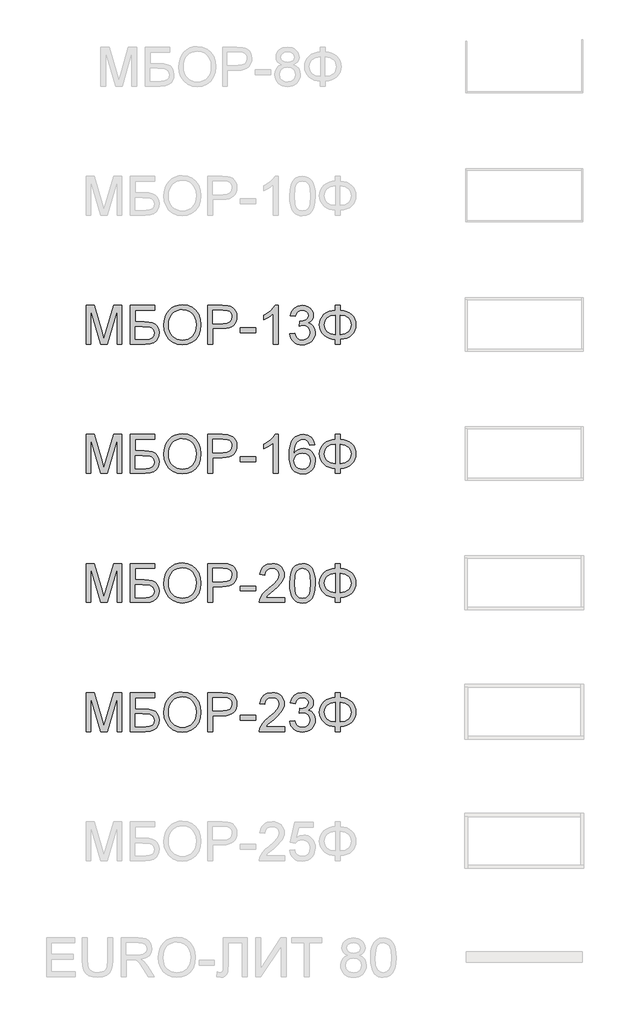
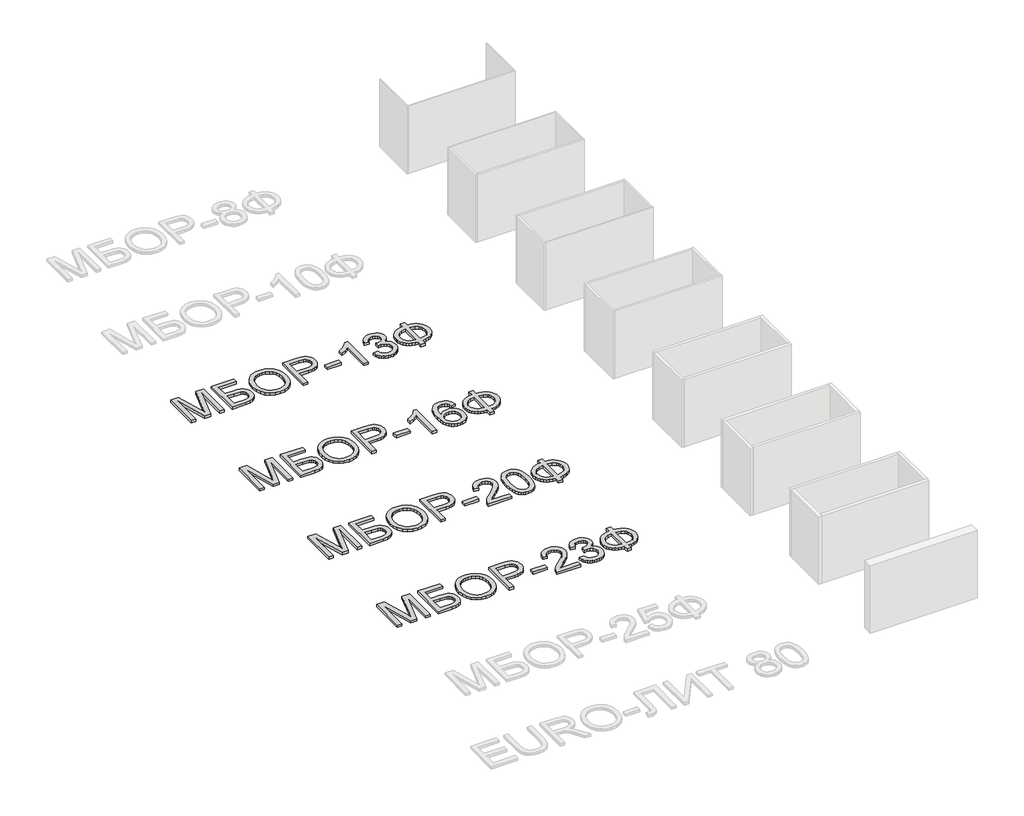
# One storey, part 12 of 35: 4 proxies.
"""IFC4 building model written with IfcOpenShell, lengths in millimetres."""

from ifc_helpers import new_model, si_unit, origin, origin_with_axes, place, context, project, spatial, polyline, outline, extrude, element, save

model = new_model("IFC4")

# Units and contexts
model_context = context("Model", 3, world=origin())
ifc_project = project(units=[si_unit("LENGTHUNIT", "METRE", prefix="MILLI")], contexts=[model_context])

# Site, building, storey
site = spatial("IfcSite", under=ifc_project)
building = spatial("IfcBuilding", under=site)
storey = spatial("IfcBuildingStorey", under=building, Name="Этаж 01", Elevation=0.0)

# Proxies
placement = place(None, origin())
element("IfcBuildingElementProxy", 1, Name="600 мм Arial", ObjectType="600 мм Arial", at=placement, inside=storey, context=model_context, shape_type="SweptSolid", body=[
    extrude(outline(polyline([(7606.5104711, -52310.4960856), (7606.5104711, -52009.1271552), (7671.3312786, -52009.1271552), (7732.988301, -52221.5422192), (7745.4227125, -52265.9087878), (7758.8871935, -52217.8633993), (7819.5141463, -52009.1271552), (7884.3349539, -52009.1271552), (7884.3349539, -52310.4960856), (7846.6638375, -52310.4960856), (7846.6638375, -52046.7982715), (7770.9537229, -52310.4960856), (7719.891702, -52310.4960856), (7644.1815874, -52046.7982715), (7644.1815874, -52310.4960856), (7606.5104711, -52310.4960856)])), origin_with_axes(), (0.0, 0.0, 1.0), 20.0),
    extrude(outline(polyline([(7950.2594074, -52009.1271552), (8138.6149889, -52009.1271552), (8138.6149889, -52046.7982715), (7987.9305237, -52046.7982715), (7987.9305237, -52136.2671727), (8058.4902904, -52136.2671727), (8093.5678386, -52138.1801591), (8120.6623476, -52143.9191182), (8141.4660744, -52154.9739722), (8157.6712763, -52172.8346431), (8168.1007308, -52195.8272678), (8171.5772157, -52222.2779832), (8169.1032093, -52244.4888587), (8161.68119, -52265.209812), (8149.3479461, -52283.3555915), (8132.1402658, -52297.840945), (8105.5975799, -52307.3323005), (8065.2593191, -52310.4960856), (7950.2594074, -52310.4960856), (7950.2594074, -52009.1271552)]), holes=[polyline([(7987.9305237, -52272.8249693), (8068.6438334, -52272.8249693), (8097.1730822, -52269.7163665), (8117.5721388, -52260.3905579), (8129.8226092, -52244.8475436), (8133.9060994, -52223.0873236), (8131.5700487, -52206.8821217), (8124.5618967, -52193.5831876), (8113.3874811, -52183.7239501), (8098.5526396, -52177.8378382), (8041.7884478, -52173.938289), (7987.9305237, -52173.938289), (7987.9305237, -52272.8249693)])]), origin_with_axes(), (0.0, 0.0, 1.0), 20.0),
    extrude(outline(polyline([(8209.248332, -52163.784746), (8211.7591266, -52128.4358848), (8219.2915105, -52097.1429225), (8231.8454835, -52069.9058593), (8249.4210459, -52046.7246951), (8270.9651352, -52028.2156322), (8295.4246894, -52014.994873), (8322.7997083, -52007.0624175), (8353.0901921, -52004.4182657), (8392.6191125, -52009.3846726), (8428.0645427, -52024.2838934), (8457.4951023, -52048.0674644), (8478.9794109, -52079.6869219), (8492.1127981, -52117.6155556), (8496.4905938, -52160.3266552), (8491.8828718, -52203.607972), (8478.0597059, -52242.0700345), (8455.7844511, -52273.7446743), (8425.8204626, -52296.6637226), (8390.678535, -52310.569662), (8352.8694629, -52315.2049752), (8312.7335372, -52310.0822184), (8277.0857719, -52294.7139481), (8247.7287887, -52270.4889187), (8226.4652094, -52238.7958848), (8213.5525513, -52202.329582), (8209.248332, -52163.784746)]), holes=[polyline([(8246.9194483, -52164.152628), (8248.8025443, -52189.1272169), (8254.4518321, -52211.2967056), (8263.867312, -52230.6610942), (8277.0489837, -52247.2203825), (8293.0725439, -52260.4825284), (8311.0136889, -52269.9554898), (8330.8724189, -52275.6392666), (8352.6487337, -52277.5338589), (8374.7975291, -52275.6208725), (8394.8907838, -52269.8819134), (8412.9284979, -52260.3169815), (8428.9106713, -52246.9260769), (8441.995774, -52230.0173007), (8451.342276, -52209.8987541), (8456.9501771, -52186.570437), (8458.8194775, -52160.0323496), (8455.6189042, -52126.6838468), (8446.0171841, -52097.8602924), (8430.2626376, -52074.2882536), (8408.6035852, -52056.6942972), (8382.4747665, -52045.7406108), (8353.3109213, -52042.089382), (8332.2910638, -52043.8483178), (8312.7887195, -52049.1251251), (8294.8038885, -52057.9198041), (8278.3365707, -52070.2323546), (8264.5915796, -52086.6559864), (8254.7737289, -52107.7839093), (8248.8830184, -52133.6161231), (8246.9194483, -52164.152628)])]), origin_with_axes(), (0.0, 0.0, 1.0), 20.0),
    extrude(outline(polyline([(8548.2883787, -52310.4960856), (8548.2883787, -52009.1271552), (8659.9773525, -52009.1271552), (8705.0061087, -52011.9966348), (8725.0832686, -52017.3585148), (8741.6103672, -52026.0865152), (8754.9184984, -52038.5761089), (8765.3387559, -52055.2227692), (8772.0709964, -52074.8584707), (8774.3150766, -52096.3151881), (8772.7998626, -52114.8150539), (8768.2542207, -52131.8341947), (8760.6781509, -52147.3726105), (8750.0716531, -52161.4303012), (8735.5104239, -52173.0829634), (8716.0701597, -52181.4062935), (8691.7508606, -52186.4002916), (8662.5525264, -52188.0649577), (8585.9594951, -52188.0649577), (8585.9594951, -52310.4960856), (8548.2883787, -52310.4960856)]), holes=[polyline([(8585.9594951, -52150.3938413), (8664.7598184, -52150.3938413), (8698.1635036, -52146.9357506), (8720.2364233, -52136.5614783), (8732.542076, -52119.914818), (8736.6439603, -52097.6395632), (8734.2251362, -52080.7169915), (8726.9686638, -52066.44317), (8715.7758541, -52055.7010158), (8701.5480179, -52049.3734455), (8663.8769016, -52046.7982715), (8585.9594951, -52046.7982715), (8585.9594951, -52150.3938413)])]), origin_with_axes(), (0.0, 0.0, 1.0), 20.0),
    extrude(outline(polyline([(8802.5684138, -52221.0271844), (8802.5684138, -52183.3560681), (8920.2906523, -52183.3560681), (8920.2906523, -52221.0271844), (8802.5684138, -52221.0271844)])), origin_with_axes(), (0.0, 0.0, 1.0), 20.0),
    extrude(outline(polyline([(9094.5195652, -52310.4960856), (9056.8484489, -52310.4960856), (9056.8484489, -52075.6402199), (9021.1638953, -52101.0608658), (8981.5062163, -52120.0803649), (8981.5062163, -52084.4693878), (9011.0931257, -52068.3745505), (9036.7253037, -52049.2262927), (9056.9312223, -52028.8640242), (9070.2393535, -52009.1271552), (9094.5195652, -52009.1271552), (9094.5195652, -52310.4960856)])), origin_with_axes(), (0.0, 0.0, 1.0), 20.0),
    extrude(outline(polyline([(9183.9884664, -52230.4449635), (9221.6595827, -52225.736074), (9230.0932775, -52249.4092803), (9242.4449154, -52265.393753), (9259.321502, -52274.4988324), (9281.3300423, -52277.5338589), (9307.1553584, -52273.3583982), (9327.0945625, -52260.8320163), (9339.8416737, -52242.1436109), (9344.0907107, -52219.48208), (9339.8784619, -52197.9701804), (9327.2417153, -52180.5233768), (9308.1118516, -52168.9626851), (9284.4202511, -52165.1091212), (9258.0063238, -52169.2293995), (9262.2001786, -52131.5582832), (9268.2334433, -52131.9997416), (9290.8030037, -52129.2958089), (9310.9813311, -52121.1840109), (9325.2183644, -52107.4620125), (9329.9640421, -52087.9274786), (9326.5243454, -52071.6578973), (9316.2052555, -52058.4601308), (9300.4599061, -52049.7137363), (9280.7414311, -52046.7982715), (9260.986168, -52049.7413275), (9244.8361484, -52058.5704954), (9233.0455305, -52073.2857752), (9226.3684723, -52093.8871669), (9188.697356, -52089.1782774), (9199.7889981, -52055.3515279), (9219.5258671, -52030.0964289), (9246.5284056, -52014.3694736), (9279.417056, -52009.1271552), (9303.0994594, -52011.7115262), (9324.8504824, -52019.4646393), (9343.1893998, -52031.6967156), (9356.6354867, -52047.7179765), (9364.8852405, -52066.1764556), (9367.6351584, -52085.7201866), (9365.0231962, -52103.9303454), (9357.1873097, -52120.4482469), (9344.2378635, -52134.5197333), (9326.2852221, -52145.3906462), (9349.866458, -52154.9187899), (9367.3408528, -52171.1423859), (9378.1565835, -52193.1785174), (9381.761827, -52220.1442676), (9379.9592052, -52239.2557373), (9374.5513399, -52256.8588908), (9365.538231, -52272.953728), (9352.9198786, -52287.5402491), (9337.5470097, -52299.6435668), (9320.2703515, -52308.2887937), (9301.089904, -52313.4759298), (9280.0056672, -52315.2049752), (9260.9493798, -52313.7288487), (9243.5853496, -52309.3004692), (9227.9135766, -52301.9198366), (9213.9340608, -52291.5869511), (9202.2124207, -52278.9088178), (9193.314275, -52264.4924422), (9187.2396235, -52248.337824), (9183.9884664, -52230.4449635)])), origin_with_axes(), (0.0, 0.0, 1.0), 20.0),
    extrude(outline(polyline([(9537.1551818, -52046.7982715), (9537.1551818, -52009.1271552), (9574.8262981, -52009.1271552), (9574.8262981, -52046.7982715), (9601.6977786, -52050.1184065), (9625.5848164, -52056.9886028), (9646.4874115, -52067.4088603), (9664.4055639, -52081.3791791), (9678.7782536, -52098.0856202), (9689.0444605, -52116.7142447), (9695.2041847, -52137.2650526), (9697.2574261, -52159.738044), (9695.268564, -52181.76038), (9689.3019779, -52202.0628676), (9679.3576678, -52220.6455069), (9665.4356335, -52237.5082978), (9647.8393778, -52251.7177399), (9626.8724034, -52262.3403325), (9602.5347101, -52269.3760756), (9574.8262981, -52272.8249693), (9574.8262981, -52310.4960856), (9537.1551818, -52310.4960856), (9537.1551818, -52272.8249693), (9511.9874548, -52270.0175699), (9489.0178227, -52263.6555106), (9468.2462856, -52253.7387916), (9449.6728433, -52240.2674128), (9434.3827479, -52223.7977957), (9423.4612512, -52204.8863619), (9416.9083531, -52183.5331113), (9414.7240538, -52159.738044), (9416.9014553, -52135.8349114), (9423.43366, -52114.4517704), (9434.3206678, -52095.5886211), (9449.5624787, -52079.2454635), (9468.101432, -52065.9051426), (9488.879867, -52056.0505037), (9511.8977836, -52049.6815466), (9537.1551818, -52046.7982715)]), holes=[polyline([(9537.1551818, -52084.4693878), (9502.8777769, -52090.5026525), (9475.8292532, -52105.5122379), (9465.5768418, -52116.217604), (9458.2536909, -52128.8359564), (9453.8598003, -52143.3672952), (9452.3951701, -52159.8116204), (9453.8414062, -52176.1064935), (9458.1801145, -52190.5573582), (9465.4112949, -52203.1642143), (9475.5349476, -52213.9270619), (9502.5098949, -52229.0746031), (9537.1551818, -52235.153853), (9537.1551818, -52084.4693878)]), polyline([(9574.8262981, -52084.4693878), (9574.8262981, -52235.153853), (9610.0693932, -52228.9274503), (9636.9247789, -52213.7799091), (9646.8391986, -52203.0538497), (9653.9209271, -52190.4837818), (9659.5863098, -52159.8116204), (9654.0220946, -52129.5533263), (9647.0668256, -52117.0591341), (9637.3294491, -52106.3215783), (9610.575231, -52090.9992932), (9574.8262981, -52084.4693878)])]), origin_with_axes(), (0.0, 0.0, 1.0), 20.0),
])
element("IfcBuildingElementProxy", 2, Name="600 мм Arial", ObjectType="600 мм Arial", at=placement, inside=storey, context=model_context, shape_type="SweptSolid", body=[
    extrude(outline(polyline([(7606.5104711, -53310.4960856), (7606.5104711, -53009.1271552), (7671.3312786, -53009.1271552), (7732.988301, -53221.5422192), (7745.4227125, -53265.9087878), (7758.8871935, -53217.8633993), (7819.5141463, -53009.1271552), (7884.3349539, -53009.1271552), (7884.3349539, -53310.4960856), (7846.6638375, -53310.4960856), (7846.6638375, -53046.7982715), (7770.9537229, -53310.4960856), (7719.891702, -53310.4960856), (7644.1815874, -53046.7982715), (7644.1815874, -53310.4960856), (7606.5104711, -53310.4960856)])), origin_with_axes(), (0.0, 0.0, 1.0), 20.0),
    extrude(outline(polyline([(7950.2594074, -53009.1271552), (8138.6149889, -53009.1271552), (8138.6149889, -53046.7982715), (7987.9305237, -53046.7982715), (7987.9305237, -53136.2671727), (8058.4902904, -53136.2671727), (8093.5678386, -53138.1801591), (8120.6623476, -53143.9191182), (8141.4660744, -53154.9739722), (8157.6712763, -53172.8346431), (8168.1007308, -53195.8272678), (8171.5772157, -53222.2779832), (8169.1032093, -53244.4888587), (8161.68119, -53265.209812), (8149.3479461, -53283.3555915), (8132.1402658, -53297.840945), (8105.5975799, -53307.3323005), (8065.2593191, -53310.4960856), (7950.2594074, -53310.4960856), (7950.2594074, -53009.1271552)]), holes=[polyline([(7987.9305237, -53272.8249693), (8068.6438334, -53272.8249693), (8097.1730822, -53269.7163665), (8117.5721388, -53260.3905579), (8129.8226092, -53244.8475436), (8133.9060994, -53223.0873236), (8131.5700487, -53206.8821217), (8124.5618967, -53193.5831876), (8113.3874811, -53183.7239501), (8098.5526396, -53177.8378382), (8041.7884478, -53173.938289), (7987.9305237, -53173.938289), (7987.9305237, -53272.8249693)])]), origin_with_axes(), (0.0, 0.0, 1.0), 20.0),
    extrude(outline(polyline([(8209.248332, -53163.784746), (8211.7591266, -53128.4358848), (8219.2915105, -53097.1429225), (8231.8454835, -53069.9058593), (8249.4210459, -53046.7246951), (8270.9651352, -53028.2156322), (8295.4246894, -53014.994873), (8322.7997083, -53007.0624175), (8353.0901921, -53004.4182657), (8392.6191125, -53009.3846726), (8428.0645427, -53024.2838934), (8457.4951023, -53048.0674644), (8478.9794109, -53079.6869219), (8492.1127981, -53117.6155556), (8496.4905938, -53160.3266552), (8491.8828718, -53203.607972), (8478.0597059, -53242.0700345), (8455.7844511, -53273.7446743), (8425.8204626, -53296.6637226), (8390.678535, -53310.569662), (8352.8694629, -53315.2049752), (8312.7335372, -53310.0822184), (8277.0857719, -53294.7139481), (8247.7287887, -53270.4889187), (8226.4652094, -53238.7958848), (8213.5525513, -53202.329582), (8209.248332, -53163.784746)]), holes=[polyline([(8246.9194483, -53164.152628), (8248.8025443, -53189.1272169), (8254.4518321, -53211.2967056), (8263.867312, -53230.6610942), (8277.0489837, -53247.2203825), (8293.0725439, -53260.4825284), (8311.0136889, -53269.9554898), (8330.8724189, -53275.6392666), (8352.6487337, -53277.5338589), (8374.7975291, -53275.6208725), (8394.8907838, -53269.8819134), (8412.9284979, -53260.3169815), (8428.9106713, -53246.9260769), (8441.995774, -53230.0173007), (8451.342276, -53209.8987541), (8456.9501771, -53186.570437), (8458.8194775, -53160.0323496), (8455.6189042, -53126.6838468), (8446.0171841, -53097.8602924), (8430.2626376, -53074.2882536), (8408.6035852, -53056.6942972), (8382.4747665, -53045.7406108), (8353.3109213, -53042.089382), (8332.2910638, -53043.8483178), (8312.7887195, -53049.1251251), (8294.8038885, -53057.9198041), (8278.3365707, -53070.2323546), (8264.5915796, -53086.6559864), (8254.7737289, -53107.7839093), (8248.8830184, -53133.6161231), (8246.9194483, -53164.152628)])]), origin_with_axes(), (0.0, 0.0, 1.0), 20.0),
    extrude(outline(polyline([(8548.2883787, -53310.4960856), (8548.2883787, -53009.1271552), (8659.9773525, -53009.1271552), (8705.0061087, -53011.9966348), (8725.0832686, -53017.3585148), (8741.6103672, -53026.0865152), (8754.9184984, -53038.5761089), (8765.3387559, -53055.2227692), (8772.0709964, -53074.8584707), (8774.3150766, -53096.3151881), (8772.7998626, -53114.8150539), (8768.2542207, -53131.8341947), (8760.6781509, -53147.3726105), (8750.0716531, -53161.4303012), (8735.5104239, -53173.0829634), (8716.0701597, -53181.4062935), (8691.7508606, -53186.4002916), (8662.5525264, -53188.0649577), (8585.9594951, -53188.0649577), (8585.9594951, -53310.4960856), (8548.2883787, -53310.4960856)]), holes=[polyline([(8585.9594951, -53150.3938413), (8664.7598184, -53150.3938413), (8698.1635036, -53146.9357506), (8720.2364233, -53136.5614783), (8732.542076, -53119.914818), (8736.6439603, -53097.6395632), (8734.2251362, -53080.7169915), (8726.9686638, -53066.44317), (8715.7758541, -53055.7010158), (8701.5480179, -53049.3734455), (8663.8769016, -53046.7982715), (8585.9594951, -53046.7982715), (8585.9594951, -53150.3938413)])]), origin_with_axes(), (0.0, 0.0, 1.0), 20.0),
    extrude(outline(polyline([(8802.5684138, -53221.0271844), (8802.5684138, -53183.3560681), (8920.2906523, -53183.3560681), (8920.2906523, -53221.0271844), (8802.5684138, -53221.0271844)])), origin_with_axes(), (0.0, 0.0, 1.0), 20.0),
    extrude(outline(polyline([(9094.5195652, -53310.4960856), (9056.8484489, -53310.4960856), (9056.8484489, -53075.6402199), (9021.1638953, -53101.0608658), (8981.5062163, -53120.0803649), (8981.5062163, -53084.4693878), (9011.0931257, -53068.3745505), (9036.7253037, -53049.2262927), (9056.9312223, -53028.8640242), (9070.2393535, -53009.1271552), (9094.5195652, -53009.1271552), (9094.5195652, -53310.4960856)])), origin_with_axes(), (0.0, 0.0, 1.0), 20.0),
    extrude(outline(polyline([(9377.0529375, -53089.1782774), (9339.3818212, -53093.8871669), (9333.3117683, -53075.2171556), (9325.1079998, -53062.4700445), (9308.0198811, -53050.7162148), (9287.3633071, -53046.7982715), (9269.8521241, -53049.0791399), (9253.3710107, -53055.921745), (9239.2167509, -53070.3335221), (9227.6560592, -53090.1715587), (9219.8477639, -53118.2317579), (9216.9506932, -53157.3100229), (9232.0614461, -53139.6792782), (9250.1704373, -53127.2540639), (9270.2659913, -53119.8872269), (9291.3364326, -53117.4316146), (9309.4362268, -53119.1100762), (9326.1380693, -53124.145461), (9341.4419603, -53132.537769), (9355.3478998, -53144.2870002), (9366.9039929, -53158.6941789), (9375.1583452, -53175.0603291), (9380.1109566, -53193.385451), (9381.761827, -53213.6695445), (9378.6532242, -53240.6444918), (9369.3274156, -53265.6512704), (9354.5569535, -53286.8596675), (9335.11439, -53302.43947), (9311.882642, -53312.0135989), (9285.7446263, -53315.2049752), (9263.2877297, -53313.0896537), (9243.0059355, -53306.7436893), (9224.8992435, -53296.1670819), (9208.9676539, -53281.3598316), (9195.9791202, -53261.696539), (9186.7015961, -53236.5518046), (9181.1350817, -53205.9256285), (9179.2795769, -53169.8180107), (9181.339716, -53129.3371956), (9187.5201336, -53094.7884778), (9197.8208294, -53066.1718571), (9212.2418036, -53043.4873335), (9227.8721899, -53028.4547555), (9245.9949767, -53017.7171998), (9266.610164, -53011.2746663), (9289.7177518, -53009.1271552), (9322.7719491, -53014.44305), (9349.2410586, -53030.3907345), (9367.7823112, -53055.7194099), (9377.0529375, -53089.1782774)]), holes=[polyline([(9216.9506932, -53213.0809333), (9219.130394, -53229.7735789), (9225.6694965, -53245.7120663), (9235.8230395, -53259.4156706), (9248.8460622, -53269.4036668), (9264.5638204, -53275.5013109), (9282.8015703, -53277.5338589), (9307.6611961, -53273.32161), (9327.2049271, -53260.6848635), (9339.8692648, -53240.8192358), (9344.0907107, -53214.9203433), (9339.9244471, -53190.0607175), (9327.4256563, -53171.1055977), (9307.5508315, -53159.1034476), (9281.2564659, -53155.1027309), (9256.4336283, -53159.1034476), (9235.6758867, -53171.1055977), (9221.6319916, -53189.600865), (9216.9506932, -53213.0809333)])]), origin_with_axes(), (0.0, 0.0, 1.0), 20.0),
    extrude(outline(polyline([(9537.1551818, -53046.7982715), (9537.1551818, -53009.1271552), (9574.8262981, -53009.1271552), (9574.8262981, -53046.7982715), (9601.6977786, -53050.1184065), (9625.5848164, -53056.9886028), (9646.4874115, -53067.4088603), (9664.4055639, -53081.3791791), (9678.7782536, -53098.0856202), (9689.0444605, -53116.7142447), (9695.2041847, -53137.2650526), (9697.2574261, -53159.738044), (9695.268564, -53181.76038), (9689.3019779, -53202.0628676), (9679.3576678, -53220.6455069), (9665.4356335, -53237.5082978), (9647.8393778, -53251.7177399), (9626.8724034, -53262.3403325), (9602.5347101, -53269.3760756), (9574.8262981, -53272.8249693), (9574.8262981, -53310.4960856), (9537.1551818, -53310.4960856), (9537.1551818, -53272.8249693), (9511.9874548, -53270.0175699), (9489.0178227, -53263.6555106), (9468.2462856, -53253.7387916), (9449.6728433, -53240.2674128), (9434.3827479, -53223.7977957), (9423.4612512, -53204.8863619), (9416.9083531, -53183.5331113), (9414.7240538, -53159.738044), (9416.9014553, -53135.8349114), (9423.43366, -53114.4517704), (9434.3206678, -53095.5886211), (9449.5624787, -53079.2454635), (9468.101432, -53065.9051426), (9488.879867, -53056.0505037), (9511.8977836, -53049.6815466), (9537.1551818, -53046.7982715)]), holes=[polyline([(9574.8262981, -53084.4693878), (9574.8262981, -53235.153853), (9610.0693932, -53228.9274503), (9636.9247789, -53213.7799091), (9646.8391986, -53203.0538497), (9653.9209271, -53190.4837818), (9659.5863098, -53159.8116204), (9654.0220946, -53129.5533263), (9647.0668256, -53117.0591341), (9637.3294491, -53106.3215783), (9610.575231, -53090.9992932), (9574.8262981, -53084.4693878)]), polyline([(9537.1551818, -53084.4693878), (9502.8777769, -53090.5026525), (9475.8292532, -53105.5122379), (9465.5768418, -53116.217604), (9458.2536909, -53128.8359564), (9453.8598003, -53143.3672952), (9452.3951701, -53159.8116204), (9453.8414062, -53176.1064935), (9458.1801145, -53190.5573582), (9465.4112949, -53203.1642143), (9475.5349476, -53213.9270619), (9502.5098949, -53229.0746031), (9537.1551818, -53235.153853), (9537.1551818, -53084.4693878)])]), origin_with_axes(), (0.0, 0.0, 1.0), 20.0),
])
element("IfcBuildingElementProxy", 3, Name="600 мм Arial", ObjectType="600 мм Arial", at=placement, inside=storey, context=model_context, shape_type="SweptSolid", body=[
    extrude(outline(polyline([(7606.5104711, -54310.4960856), (7606.5104711, -54009.1271552), (7671.3312786, -54009.1271552), (7732.988301, -54221.5422192), (7745.4227125, -54265.9087878), (7758.8871935, -54217.8633993), (7819.5141463, -54009.1271552), (7884.3349539, -54009.1271552), (7884.3349539, -54310.4960856), (7846.6638375, -54310.4960856), (7846.6638375, -54046.7982715), (7770.9537229, -54310.4960856), (7719.891702, -54310.4960856), (7644.1815874, -54046.7982715), (7644.1815874, -54310.4960856), (7606.5104711, -54310.4960856)])), origin_with_axes(), (0.0, 0.0, 1.0), 20.0),
    extrude(outline(polyline([(7950.2594074, -54009.1271552), (8138.6149889, -54009.1271552), (8138.6149889, -54046.7982715), (7987.9305237, -54046.7982715), (7987.9305237, -54136.2671727), (8058.4902904, -54136.2671727), (8093.5678386, -54138.1801591), (8120.6623476, -54143.9191182), (8141.4660744, -54154.9739722), (8157.6712763, -54172.8346431), (8168.1007308, -54195.8272678), (8171.5772157, -54222.2779832), (8169.1032093, -54244.4888587), (8161.68119, -54265.209812), (8149.3479461, -54283.3555915), (8132.1402658, -54297.840945), (8105.5975799, -54307.3323005), (8065.2593191, -54310.4960856), (7950.2594074, -54310.4960856), (7950.2594074, -54009.1271552)]), holes=[polyline([(7987.9305237, -54272.8249693), (8068.6438334, -54272.8249693), (8097.1730822, -54269.7163665), (8117.5721388, -54260.3905579), (8129.8226092, -54244.8475436), (8133.9060994, -54223.0873236), (8131.5700487, -54206.8821217), (8124.5618967, -54193.5831876), (8113.3874811, -54183.7239501), (8098.5526396, -54177.8378382), (8041.7884478, -54173.938289), (7987.9305237, -54173.938289), (7987.9305237, -54272.8249693)])]), origin_with_axes(), (0.0, 0.0, 1.0), 20.0),
    extrude(outline(polyline([(8209.248332, -54163.784746), (8211.7591266, -54128.4358848), (8219.2915105, -54097.1429225), (8231.8454835, -54069.9058593), (8249.4210459, -54046.7246951), (8270.9651352, -54028.2156322), (8295.4246894, -54014.994873), (8322.7997083, -54007.0624175), (8353.0901921, -54004.4182657), (8392.6191125, -54009.3846726), (8428.0645427, -54024.2838934), (8457.4951023, -54048.0674644), (8478.9794109, -54079.6869219), (8492.1127981, -54117.6155556), (8496.4905938, -54160.3266552), (8491.8828718, -54203.607972), (8478.0597059, -54242.0700345), (8455.7844511, -54273.7446743), (8425.8204626, -54296.6637226), (8390.678535, -54310.569662), (8352.8694629, -54315.2049752), (8312.7335372, -54310.0822184), (8277.0857719, -54294.7139481), (8247.7287887, -54270.4889187), (8226.4652094, -54238.7958848), (8213.5525513, -54202.329582), (8209.248332, -54163.784746)]), holes=[polyline([(8246.9194483, -54164.152628), (8248.8025443, -54189.1272169), (8254.4518321, -54211.2967056), (8263.867312, -54230.6610942), (8277.0489837, -54247.2203825), (8293.0725439, -54260.4825284), (8311.0136889, -54269.9554898), (8330.8724189, -54275.6392666), (8352.6487337, -54277.5338589), (8374.7975291, -54275.6208725), (8394.8907838, -54269.8819134), (8412.9284979, -54260.3169815), (8428.9106713, -54246.9260769), (8441.995774, -54230.0173007), (8451.342276, -54209.8987541), (8456.9501771, -54186.570437), (8458.8194775, -54160.0323496), (8455.6189042, -54126.6838468), (8446.0171841, -54097.8602924), (8430.2626376, -54074.2882536), (8408.6035852, -54056.6942972), (8382.4747665, -54045.7406108), (8353.3109213, -54042.089382), (8332.2910638, -54043.8483178), (8312.7887195, -54049.1251251), (8294.8038885, -54057.9198041), (8278.3365707, -54070.2323546), (8264.5915796, -54086.6559864), (8254.7737289, -54107.7839093), (8248.8830184, -54133.6161231), (8246.9194483, -54164.152628)])]), origin_with_axes(), (0.0, 0.0, 1.0), 20.0),
    extrude(outline(polyline([(8548.2883787, -54310.4960856), (8548.2883787, -54009.1271552), (8659.9773525, -54009.1271552), (8705.0061087, -54011.9966348), (8725.0832686, -54017.3585148), (8741.6103672, -54026.0865152), (8754.9184984, -54038.5761089), (8765.3387559, -54055.2227692), (8772.0709964, -54074.8584707), (8774.3150766, -54096.3151881), (8772.7998626, -54114.8150539), (8768.2542207, -54131.8341947), (8760.6781509, -54147.3726105), (8750.0716531, -54161.4303012), (8735.5104239, -54173.0829634), (8716.0701597, -54181.4062935), (8691.7508606, -54186.4002916), (8662.5525264, -54188.0649577), (8585.9594951, -54188.0649577), (8585.9594951, -54310.4960856), (8548.2883787, -54310.4960856)]), holes=[polyline([(8585.9594951, -54150.3938413), (8664.7598184, -54150.3938413), (8698.1635036, -54146.9357506), (8720.2364233, -54136.5614783), (8732.542076, -54119.914818), (8736.6439603, -54097.6395632), (8734.2251362, -54080.7169915), (8726.9686638, -54066.44317), (8715.7758541, -54055.7010158), (8701.5480179, -54049.3734455), (8663.8769016, -54046.7982715), (8585.9594951, -54046.7982715), (8585.9594951, -54150.3938413)])]), origin_with_axes(), (0.0, 0.0, 1.0), 20.0),
    extrude(outline(polyline([(8802.5684138, -54221.0271844), (8802.5684138, -54183.3560681), (8920.2906523, -54183.3560681), (8920.2906523, -54221.0271844), (8802.5684138, -54221.0271844)])), origin_with_axes(), (0.0, 0.0, 1.0), 20.0),
    extrude(outline(polyline([(9146.3173501, -54272.8249693), (9146.3173501, -54310.4960856), (8948.5439895, -54310.4960856), (8952.5906914, -54284.5236168), (8961.8797118, -54264.2257277), (8975.4729515, -54244.5348439), (8995.1362442, -54223.9242551), (9022.6354233, -54200.8672511), (9063.2863838, -54164.7596333), (9087.6769601, -54138.1065827), (9099.8722482, -54116.4751214), (9103.9373443, -54095.4322713), (9100.1021745, -54076.569122), (9088.5966651, -54060.8881519), (9070.9107381, -54050.3207416), (9048.5343158, -54046.7982715), (9025.0358533, -54050.2379682), (9006.7797093, -54060.5570581), (8994.9982884, -54076.946201), (8990.9239953, -54098.5960564), (8953.252879, -54093.8871669), (8962.3855496, -54057.4484553), (8970.9319082, -54042.9125179), (8982.1316157, -54030.8321929), (8995.7271546, -54021.3362389), (9011.4610077, -54014.5534146), (9049.3436562, -54009.1271552), (9069.5334799, -54010.6354714), (9087.5022161, -54015.1604199), (9103.2498648, -54022.7020008), (9116.7764259, -54033.2602141), (9127.6404411, -54046.0533105), (9135.4004519, -54060.2995407), (9140.0564584, -54075.9989049), (9141.6084606, -54093.1514029), (9139.9345975, -54111.1684236), (9134.9130083, -54128.8727446), (9126.0010669, -54146.8805683), (9112.6561475, -54165.8080969), (9091.3833712, -54188.4052485), (9058.6878589, -54217.4219409), (9015.3513598, -54253.6583174), (8998.3552116, -54272.8249693), (9146.3173501, -54272.8249693)])), origin_with_axes(), (0.0, 0.0, 1.0), 20.0),
    extrude(outline(polyline([(9183.9884664, -54162.2396416), (9186.7567784, -54114.001115), (9195.0617145, -54075.5298553), (9208.8205011, -54046.2372515), (9227.9503648, -54025.5346922), (9252.5892615, -54013.2290394), (9282.8751467, -54009.1271552), (9306.0885006, -54011.5551764), (9326.8738333, -54018.8392399), (9344.2562576, -54030.6942372), (9357.2608861, -54046.8350597), (9367.0833354, -54067.1237517), (9374.9192219, -54091.4223575), (9380.0511757, -54122.2784599), (9381.761827, -54162.2396416), (9379.0211062, -54210.2022567), (9370.7989436, -54248.5815459), (9357.1229304, -54277.9017409), (9338.0206578, -54298.6870736), (9313.3265789, -54311.0754998), (9282.8751467, -54315.2049752), (9262.1266022, -54313.4115505), (9243.7325024, -54308.0312763), (9227.6928474, -54299.0641526), (9214.0076372, -54286.5101796), (9200.87425, -54263.816459), (9191.4932591, -54235.5401291), (9185.8646646, -54201.68119), (9183.9884664, -54162.2396416)]), holes=[polyline([(9221.6595827, -54162.1660652), (9226.0741667, -54221.4226576), (9231.5923966, -54241.6906562), (9239.3179185, -54255.7184566), (9259.0363934, -54272.0800083), (9282.8751467, -54277.5338589), (9306.7139, -54272.0616142), (9326.4323749, -54255.6448802), (9334.1578968, -54241.5940872), (9339.6761268, -54221.3306871), (9344.0907107, -54162.1660652), (9339.8232796, -54104.2430451), (9334.4889906, -54084.041725), (9327.0209861, -54069.6805316), (9307.3392994, -54052.5188365), (9282.4336883, -54046.7982715), (9258.8524524, -54051.8382548), (9239.9065297, -54066.9582048), (9231.9234904, -54082.5931896), (9226.2213195, -54103.672828), (9221.6595827, -54162.1660652)])]), origin_with_axes(), (0.0, 0.0, 1.0), 20.0),
    extrude(outline(polyline([(9537.1551818, -54046.7982715), (9537.1551818, -54009.1271552), (9574.8262981, -54009.1271552), (9574.8262981, -54046.7982715), (9601.6977786, -54050.1184065), (9625.5848164, -54056.9886028), (9646.4874115, -54067.4088603), (9664.4055639, -54081.3791791), (9678.7782536, -54098.0856202), (9689.0444605, -54116.7142447), (9695.2041847, -54137.2650526), (9697.2574261, -54159.738044), (9695.268564, -54181.76038), (9689.3019779, -54202.0628676), (9679.3576678, -54220.6455069), (9665.4356335, -54237.5082978), (9647.8393778, -54251.7177399), (9626.8724034, -54262.3403325), (9602.5347101, -54269.3760756), (9574.8262981, -54272.8249693), (9574.8262981, -54310.4960856), (9537.1551818, -54310.4960856), (9537.1551818, -54272.8249693), (9511.9874548, -54270.0175699), (9489.0178227, -54263.6555106), (9468.2462856, -54253.7387916), (9449.6728433, -54240.2674128), (9434.3827479, -54223.7977957), (9423.4612512, -54204.8863619), (9416.9083531, -54183.5331113), (9414.7240538, -54159.738044), (9416.9014553, -54135.8349114), (9423.43366, -54114.4517704), (9434.3206678, -54095.5886211), (9449.5624787, -54079.2454635), (9468.101432, -54065.9051426), (9488.879867, -54056.0505037), (9511.8977836, -54049.6815466), (9537.1551818, -54046.7982715)]), holes=[polyline([(9537.1551818, -54084.4693878), (9502.8777769, -54090.5026525), (9475.8292532, -54105.5122379), (9465.5768418, -54116.217604), (9458.2536909, -54128.8359564), (9453.8598003, -54143.3672952), (9452.3951701, -54159.8116204), (9453.8414062, -54176.1064935), (9458.1801145, -54190.5573582), (9465.4112949, -54203.1642143), (9475.5349476, -54213.9270619), (9502.5098949, -54229.0746031), (9537.1551818, -54235.153853), (9537.1551818, -54084.4693878)]), polyline([(9574.8262981, -54084.4693878), (9574.8262981, -54235.153853), (9610.0693932, -54228.9274503), (9636.9247789, -54213.7799091), (9646.8391986, -54203.0538497), (9653.9209271, -54190.4837818), (9659.5863098, -54159.8116204), (9654.0220946, -54129.5533263), (9647.0668256, -54117.0591341), (9637.3294491, -54106.3215783), (9610.575231, -54090.9992932), (9574.8262981, -54084.4693878)])]), origin_with_axes(), (0.0, 0.0, 1.0), 20.0),
])
element("IfcBuildingElementProxy", 4, Name="600 мм Arial", ObjectType="600 мм Arial", at=placement, inside=storey, context=model_context, shape_type="SweptSolid", body=[
    extrude(outline(polyline([(7606.5104711, -55310.4960856), (7606.5104711, -55009.1271552), (7671.3312786, -55009.1271552), (7732.988301, -55221.5422192), (7745.4227125, -55265.9087878), (7758.8871935, -55217.8633993), (7819.5141463, -55009.1271552), (7884.3349539, -55009.1271552), (7884.3349539, -55310.4960856), (7846.6638375, -55310.4960856), (7846.6638375, -55046.7982715), (7770.9537229, -55310.4960856), (7719.891702, -55310.4960856), (7644.1815874, -55046.7982715), (7644.1815874, -55310.4960856), (7606.5104711, -55310.4960856)])), origin_with_axes(), (0.0, 0.0, 1.0), 20.0),
    extrude(outline(polyline([(7950.2594074, -55009.1271552), (8138.6149889, -55009.1271552), (8138.6149889, -55046.7982715), (7987.9305237, -55046.7982715), (7987.9305237, -55136.2671727), (8058.4902904, -55136.2671727), (8093.5678386, -55138.1801591), (8120.6623476, -55143.9191182), (8141.4660744, -55154.9739722), (8157.6712763, -55172.8346431), (8168.1007308, -55195.8272678), (8171.5772157, -55222.2779832), (8169.1032093, -55244.4888587), (8161.68119, -55265.209812), (8149.3479461, -55283.3555915), (8132.1402658, -55297.840945), (8105.5975799, -55307.3323005), (8065.2593191, -55310.4960856), (7950.2594074, -55310.4960856), (7950.2594074, -55009.1271552)]), holes=[polyline([(7987.9305237, -55272.8249693), (8068.6438334, -55272.8249693), (8097.1730822, -55269.7163665), (8117.5721388, -55260.3905579), (8129.8226092, -55244.8475436), (8133.9060994, -55223.0873236), (8131.5700487, -55206.8821217), (8124.5618967, -55193.5831876), (8113.3874811, -55183.7239501), (8098.5526396, -55177.8378382), (8041.7884478, -55173.938289), (7987.9305237, -55173.938289), (7987.9305237, -55272.8249693)])]), origin_with_axes(), (0.0, 0.0, 1.0), 20.0),
    extrude(outline(polyline([(8209.248332, -55163.784746), (8211.7591266, -55128.4358848), (8219.2915105, -55097.1429225), (8231.8454835, -55069.9058593), (8249.4210459, -55046.7246951), (8270.9651352, -55028.2156322), (8295.4246894, -55014.994873), (8322.7997083, -55007.0624175), (8353.0901921, -55004.4182657), (8392.6191125, -55009.3846726), (8428.0645427, -55024.2838934), (8457.4951023, -55048.0674644), (8478.9794109, -55079.6869219), (8492.1127981, -55117.6155556), (8496.4905938, -55160.3266552), (8491.8828718, -55203.607972), (8478.0597059, -55242.0700345), (8455.7844511, -55273.7446743), (8425.8204626, -55296.6637226), (8390.678535, -55310.569662), (8352.8694629, -55315.2049752), (8312.7335372, -55310.0822184), (8277.0857719, -55294.7139481), (8247.7287887, -55270.4889187), (8226.4652094, -55238.7958848), (8213.5525513, -55202.329582), (8209.248332, -55163.784746)]), holes=[polyline([(8246.9194483, -55164.152628), (8248.8025443, -55189.1272169), (8254.4518321, -55211.2967056), (8263.867312, -55230.6610942), (8277.0489837, -55247.2203825), (8293.0725439, -55260.4825284), (8311.0136889, -55269.9554898), (8330.8724189, -55275.6392666), (8352.6487337, -55277.5338589), (8374.7975291, -55275.6208725), (8394.8907838, -55269.8819134), (8412.9284979, -55260.3169815), (8428.9106713, -55246.9260769), (8441.995774, -55230.0173007), (8451.342276, -55209.8987541), (8456.9501771, -55186.570437), (8458.8194775, -55160.0323496), (8455.6189042, -55126.6838468), (8446.0171841, -55097.8602924), (8430.2626376, -55074.2882536), (8408.6035852, -55056.6942972), (8382.4747665, -55045.7406108), (8353.3109213, -55042.089382), (8332.2910638, -55043.8483178), (8312.7887195, -55049.1251251), (8294.8038885, -55057.9198041), (8278.3365707, -55070.2323546), (8264.5915796, -55086.6559864), (8254.7737289, -55107.7839093), (8248.8830184, -55133.6161231), (8246.9194483, -55164.152628)])]), origin_with_axes(), (0.0, 0.0, 1.0), 20.0),
    extrude(outline(polyline([(8548.2883787, -55310.4960856), (8548.2883787, -55009.1271552), (8659.9773525, -55009.1271552), (8705.0061087, -55011.9966348), (8725.0832686, -55017.3585148), (8741.6103672, -55026.0865152), (8754.9184984, -55038.5761089), (8765.3387559, -55055.2227692), (8772.0709964, -55074.8584707), (8774.3150766, -55096.3151881), (8772.7998626, -55114.8150539), (8768.2542207, -55131.8341947), (8760.6781509, -55147.3726105), (8750.0716531, -55161.4303012), (8735.5104239, -55173.0829634), (8716.0701597, -55181.4062935), (8691.7508606, -55186.4002916), (8662.5525264, -55188.0649577), (8585.9594951, -55188.0649577), (8585.9594951, -55310.4960856), (8548.2883787, -55310.4960856)]), holes=[polyline([(8585.9594951, -55150.3938413), (8664.7598184, -55150.3938413), (8698.1635036, -55146.9357506), (8720.2364233, -55136.5614783), (8732.542076, -55119.914818), (8736.6439603, -55097.6395632), (8734.2251362, -55080.7169915), (8726.9686638, -55066.44317), (8715.7758541, -55055.7010158), (8701.5480179, -55049.3734455), (8663.8769016, -55046.7982715), (8585.9594951, -55046.7982715), (8585.9594951, -55150.3938413)])]), origin_with_axes(), (0.0, 0.0, 1.0), 20.0),
    extrude(outline(polyline([(8802.5684138, -55221.0271844), (8802.5684138, -55183.3560681), (8920.2906523, -55183.3560681), (8920.2906523, -55221.0271844), (8802.5684138, -55221.0271844)])), origin_with_axes(), (0.0, 0.0, 1.0), 20.0),
    extrude(outline(polyline([(9146.3173501, -55272.8249693), (9146.3173501, -55310.4960856), (8948.5439895, -55310.4960856), (8952.5906914, -55284.5236168), (8961.8797118, -55264.2257277), (8975.4729515, -55244.5348439), (8995.1362442, -55223.9242551), (9022.6354233, -55200.8672511), (9063.2863838, -55164.7596333), (9087.6769601, -55138.1065827), (9099.8722482, -55116.4751214), (9103.9373443, -55095.4322713), (9100.1021745, -55076.569122), (9088.5966651, -55060.8881519), (9070.9107381, -55050.3207416), (9048.5343158, -55046.7982715), (9025.0358533, -55050.2379682), (9006.7797093, -55060.5570581), (8994.9982884, -55076.946201), (8990.9239953, -55098.5960564), (8953.252879, -55093.8871669), (8962.3855496, -55057.4484553), (8970.9319082, -55042.9125179), (8982.1316157, -55030.8321929), (8995.7271546, -55021.3362389), (9011.4610077, -55014.5534146), (9049.3436562, -55009.1271552), (9069.5334799, -55010.6354714), (9087.5022161, -55015.1604199), (9103.2498648, -55022.7020008), (9116.7764259, -55033.2602141), (9127.6404411, -55046.0533105), (9135.4004519, -55060.2995407), (9140.0564584, -55075.9989049), (9141.6084606, -55093.1514029), (9139.9345975, -55111.1684236), (9134.9130083, -55128.8727446), (9126.0010669, -55146.8805683), (9112.6561475, -55165.8080969), (9091.3833712, -55188.4052485), (9058.6878589, -55217.4219409), (9015.3513598, -55253.6583174), (8998.3552116, -55272.8249693), (9146.3173501, -55272.8249693)])), origin_with_axes(), (0.0, 0.0, 1.0), 20.0),
    extrude(outline(polyline([(9183.9884664, -55230.4449635), (9221.6595827, -55225.736074), (9230.0932775, -55249.4092803), (9242.4449154, -55265.393753), (9259.321502, -55274.4988324), (9281.3300423, -55277.5338589), (9307.1553584, -55273.3583982), (9327.0945625, -55260.8320163), (9339.8416737, -55242.1436109), (9344.0907107, -55219.48208), (9339.8784619, -55197.9701804), (9327.2417153, -55180.5233768), (9308.1118516, -55168.9626851), (9284.4202511, -55165.1091212), (9258.0063238, -55169.2293995), (9262.2001786, -55131.5582832), (9268.2334433, -55131.9997416), (9290.8030037, -55129.2958089), (9310.9813311, -55121.1840109), (9325.2183644, -55107.4620125), (9329.9640421, -55087.9274786), (9326.5243454, -55071.6578973), (9316.2052555, -55058.4601308), (9300.4599061, -55049.7137363), (9280.7414311, -55046.7982715), (9260.986168, -55049.7413275), (9244.8361484, -55058.5704954), (9233.0455305, -55073.2857752), (9226.3684723, -55093.8871669), (9188.697356, -55089.1782774), (9199.7889981, -55055.3515279), (9219.5258671, -55030.0964289), (9246.5284056, -55014.3694736), (9279.417056, -55009.1271552), (9303.0994594, -55011.7115262), (9324.8504824, -55019.4646393), (9343.1893998, -55031.6967156), (9356.6354867, -55047.7179765), (9364.8852405, -55066.1764556), (9367.6351584, -55085.7201866), (9365.0231962, -55103.9303454), (9357.1873097, -55120.4482469), (9344.2378635, -55134.5197333), (9326.2852221, -55145.3906462), (9349.866458, -55154.9187899), (9367.3408528, -55171.1423859), (9378.1565835, -55193.1785174), (9381.761827, -55220.1442676), (9379.9592052, -55239.2557373), (9374.5513399, -55256.8588908), (9365.538231, -55272.953728), (9352.9198786, -55287.5402491), (9337.5470097, -55299.6435668), (9320.2703515, -55308.2887937), (9301.089904, -55313.4759298), (9280.0056672, -55315.2049752), (9260.9493798, -55313.7288487), (9243.5853496, -55309.3004692), (9227.9135766, -55301.9198366), (9213.9340608, -55291.5869511), (9202.2124207, -55278.9088178), (9193.314275, -55264.4924422), (9187.2396235, -55248.337824), (9183.9884664, -55230.4449635)])), origin_with_axes(), (0.0, 0.0, 1.0), 20.0),
    extrude(outline(polyline([(9537.1551818, -55046.7982715), (9537.1551818, -55009.1271552), (9574.8262981, -55009.1271552), (9574.8262981, -55046.7982715), (9601.6977786, -55050.1184065), (9625.5848164, -55056.9886028), (9646.4874115, -55067.4088603), (9664.4055639, -55081.3791791), (9678.7782536, -55098.0856202), (9689.0444605, -55116.7142447), (9695.2041847, -55137.2650526), (9697.2574261, -55159.738044), (9695.268564, -55181.76038), (9689.3019779, -55202.0628676), (9679.3576678, -55220.6455069), (9665.4356335, -55237.5082978), (9647.8393778, -55251.7177399), (9626.8724034, -55262.3403325), (9602.5347101, -55269.3760756), (9574.8262981, -55272.8249693), (9574.8262981, -55310.4960856), (9537.1551818, -55310.4960856), (9537.1551818, -55272.8249693), (9511.9874548, -55270.0175699), (9489.0178227, -55263.6555106), (9468.2462856, -55253.7387916), (9449.6728433, -55240.2674128), (9434.3827479, -55223.7977957), (9423.4612512, -55204.8863619), (9416.9083531, -55183.5331113), (9414.7240538, -55159.738044), (9416.9014553, -55135.8349114), (9423.43366, -55114.4517704), (9434.3206678, -55095.5886211), (9449.5624787, -55079.2454635), (9468.101432, -55065.9051426), (9488.879867, -55056.0505037), (9511.8977836, -55049.6815466), (9537.1551818, -55046.7982715)]), holes=[polyline([(9537.1551818, -55084.4693878), (9502.8777769, -55090.5026525), (9475.8292532, -55105.5122379), (9465.5768418, -55116.217604), (9458.2536909, -55128.8359564), (9453.8598003, -55143.3672952), (9452.3951701, -55159.8116204), (9453.8414062, -55176.1064935), (9458.1801145, -55190.5573582), (9465.4112949, -55203.1642143), (9475.5349476, -55213.9270619), (9502.5098949, -55229.0746031), (9537.1551818, -55235.153853), (9537.1551818, -55084.4693878)]), polyline([(9574.8262981, -55084.4693878), (9574.8262981, -55235.153853), (9610.0693932, -55228.9274503), (9636.9247789, -55213.7799091), (9646.8391986, -55203.0538497), (9653.9209271, -55190.4837818), (9659.5863098, -55159.8116204), (9654.0220946, -55129.5533263), (9647.0668256, -55117.0591341), (9637.3294491, -55106.3215783), (9610.575231, -55090.9992932), (9574.8262981, -55084.4693878)])]), origin_with_axes(), (0.0, 0.0, 1.0), 20.0),
])

save(model, "model.ifc")
